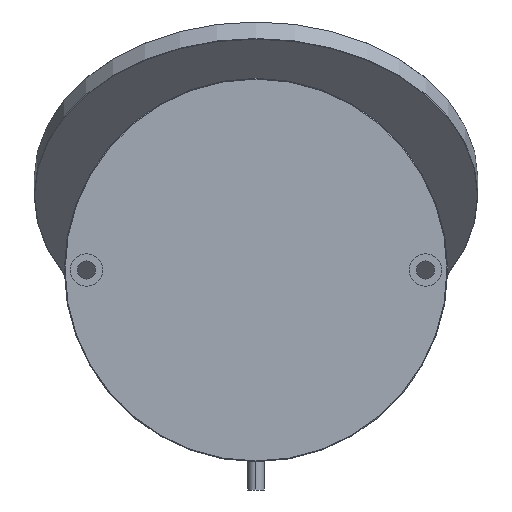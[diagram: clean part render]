
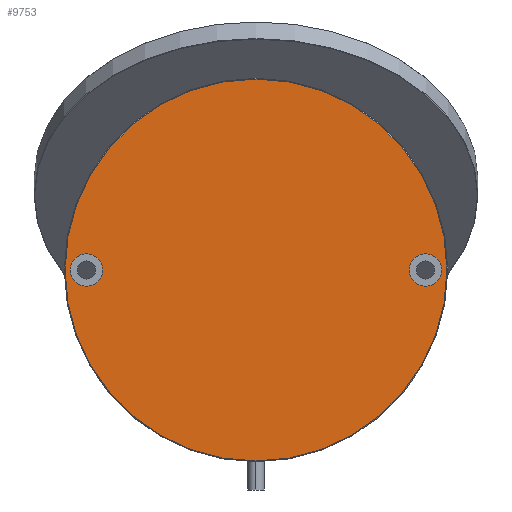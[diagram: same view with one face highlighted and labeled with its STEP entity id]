
A CAD part, left-side view. The second image highlights one B-rep face of the part: STEP entity #9753.
In plain terms, the highlighted planar face has unit normal (-1, 0, 0).
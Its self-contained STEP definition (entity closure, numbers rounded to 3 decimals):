
#1334 = CARTESIAN_POINT ( 'NONE',  ( -7., -42., 0. ) ) ;
#1831 = DIRECTION ( 'NONE',  ( 0., 0., -1. ) ) ;
#1915 = CARTESIAN_POINT ( 'NONE',  ( -7., -42., 0. ) ) ;
#2093 = EDGE_CURVE ( 'NONE', #17508, #16656, #8482, .T. ) ;
#2503 = ORIENTED_EDGE ( 'NONE', *, *, #3525, .T. ) ;
#2624 = EDGE_CURVE ( 'NONE', #6232, #8140, #8027, .T. ) ;
#2687 = CIRCLE ( 'NONE', #2706, 4. ) ;
#2706 = AXIS2_PLACEMENT_3D ( 'NONE', #6490, #16204, #8153 ) ;
#3381 = ORIENTED_EDGE ( 'NONE', *, *, #17884, .F. ) ;
#3525 = EDGE_CURVE ( 'NONE', #8140, #6232, #7558, .T. ) ;
#4078 = CARTESIAN_POINT ( 'NONE',  ( -7., 0., 0. ) ) ;
#4222 = CARTESIAN_POINT ( 'NONE',  ( -7., -42., 4. ) ) ;
#4680 = EDGE_CURVE ( 'NONE', #11638, #5923, #2687, .T. ) ;
#5053 = DIRECTION ( 'NONE',  ( 0., 0., 1. ) ) ;
#5116 = DIRECTION ( 'NONE',  ( -1., 0., 0. ) ) ;
#5236 = EDGE_CURVE ( 'NONE', #5923, #11638, #9801, .T. ) ;
#5872 = AXIS2_PLACEMENT_3D ( 'NONE', #1334, #18006, #12279 ) ;
#5923 = VERTEX_POINT ( 'NONE', #11563 ) ;
#6116 = CIRCLE ( 'NONE', #5872, 4. ) ;
#6232 = VERTEX_POINT ( 'NONE', #12873 ) ;
#6490 = CARTESIAN_POINT ( 'NONE',  ( -7., 42., 0. ) ) ;
#7389 = DIRECTION ( 'NONE',  ( -1., 0., 0. ) ) ;
#7420 = DIRECTION ( 'NONE',  ( 1., 0., 0. ) ) ;
#7451 = ORIENTED_EDGE ( 'NONE', *, *, #4680, .F. ) ;
#7558 = CIRCLE ( 'NONE', #11867, 47.3 ) ;
#7658 = AXIS2_PLACEMENT_3D ( 'NONE', #8639, #10143, #1831 ) ;
#7923 = EDGE_LOOP ( 'NONE', ( #10822, #2503 ) ) ;
#8027 = CIRCLE ( 'NONE', #7658, 47.3 ) ;
#8140 = VERTEX_POINT ( 'NONE', #8959 ) ;
#8153 = DIRECTION ( 'NONE',  ( 0., 0., 1. ) ) ;
#8192 = DIRECTION ( 'NONE',  ( -1., 0., 0. ) ) ;
#8467 = ORIENTED_EDGE ( 'NONE', *, *, #2093, .F. ) ;
#8482 = CIRCLE ( 'NONE', #14528, 4. ) ;
#8575 = FACE_OUTER_BOUND ( 'NONE', #7923, .T. ) ;
#8639 = CARTESIAN_POINT ( 'NONE',  ( -7., 0., 0. ) ) ;
#8959 = CARTESIAN_POINT ( 'NONE',  ( -7., 0., 47.3 ) ) ;
#9753 = ADVANCED_FACE ( 'NONE', ( #8575, #14904, #15344 ), #14146, .F. ) ;
#9801 = CIRCLE ( 'NONE', #10630, 4. ) ;
#10143 = DIRECTION ( 'NONE',  ( -1., 0., 0. ) ) ;
#10523 = EDGE_LOOP ( 'NONE', ( #17536, #7451 ) ) ;
#10630 = AXIS2_PLACEMENT_3D ( 'NONE', #16403, #5116, #5053 ) ;
#10822 = ORIENTED_EDGE ( 'NONE', *, *, #2624, .T. ) ;
#11135 = CARTESIAN_POINT ( 'NONE',  ( -7., -42., -4. ) ) ;
#11407 = DIRECTION ( 'NONE',  ( 0., 0., -1. ) ) ;
#11533 = CARTESIAN_POINT ( 'NONE',  ( -7., 0., 0. ) ) ;
#11563 = CARTESIAN_POINT ( 'NONE',  ( -7., 42., 4. ) ) ;
#11624 = DIRECTION ( 'NONE',  ( 0., 0., 1. ) ) ;
#11638 = VERTEX_POINT ( 'NONE', #14757 ) ;
#11867 = AXIS2_PLACEMENT_3D ( 'NONE', #4078, #8192, #13725 ) ;
#11956 = EDGE_LOOP ( 'NONE', ( #3381, #8467 ) ) ;
#12279 = DIRECTION ( 'NONE',  ( 0., 0., 1. ) ) ;
#12873 = CARTESIAN_POINT ( 'NONE',  ( -7., 0., -47.3 ) ) ;
#13725 = DIRECTION ( 'NONE',  ( 0., 0., -1. ) ) ;
#14146 = PLANE ( 'NONE',  #16057 ) ;
#14528 = AXIS2_PLACEMENT_3D ( 'NONE', #1915, #7389, #11624 ) ;
#14757 = CARTESIAN_POINT ( 'NONE',  ( -7., 42., -4. ) ) ;
#14904 = FACE_BOUND ( 'NONE', #10523, .T. ) ;
#15344 = FACE_BOUND ( 'NONE', #11956, .T. ) ;
#16057 = AXIS2_PLACEMENT_3D ( 'NONE', #11533, #7420, #11407 ) ;
#16204 = DIRECTION ( 'NONE',  ( -1., 0., 0. ) ) ;
#16403 = CARTESIAN_POINT ( 'NONE',  ( -7., 42., 0. ) ) ;
#16656 = VERTEX_POINT ( 'NONE', #4222 ) ;
#17508 = VERTEX_POINT ( 'NONE', #11135 ) ;
#17536 = ORIENTED_EDGE ( 'NONE', *, *, #5236, .F. ) ;
#17884 = EDGE_CURVE ( 'NONE', #16656, #17508, #6116, .T. ) ;
#18006 = DIRECTION ( 'NONE',  ( -1., 0., 0. ) ) ;
